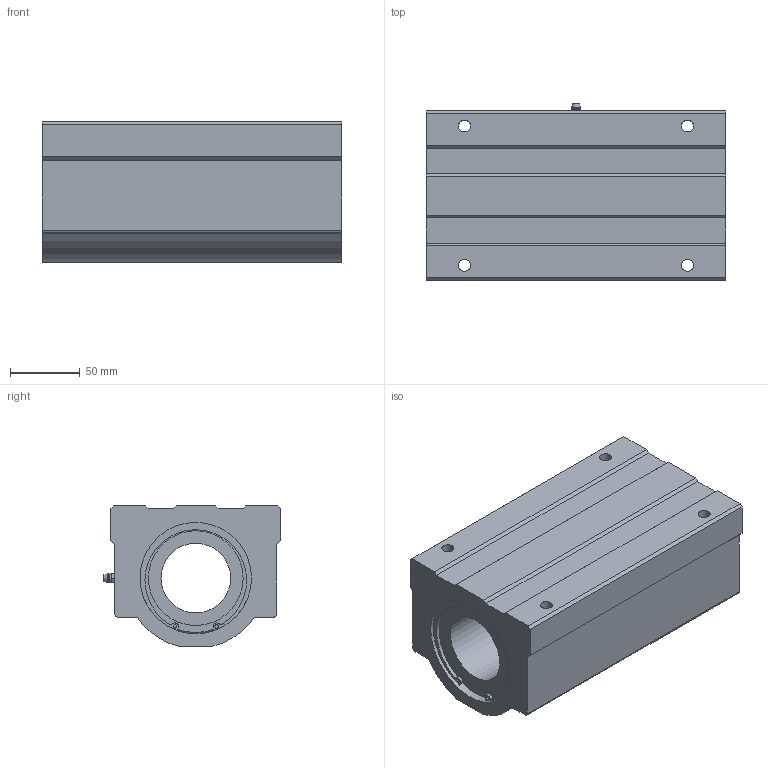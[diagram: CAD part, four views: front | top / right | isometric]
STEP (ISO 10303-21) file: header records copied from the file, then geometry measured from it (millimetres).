
FILE_DESCRIPTION((''),'2;1');
FILE_NAME('D:\製品 (図面)\カタログ用3D\リニアベアリング関連\STEP形式\LHW-B\LHW50B.stp','2010-05-21T10:52:40',('Tsuchiya'),(''),'Autodesk Inventor 10','Autodesk Inventor 10','');
FILE_SCHEMA(('AUTOMOTIVE_DESIGN { 1 0 10303 214 1 1 1 1 }'));
Length unit declared in the file: millimetre
Products named in the file (1): LHW50B
Bounding box: 215 x 127.4 x 101 mm (x, y, z)
Volume: 1818678.7 mm3; surface area: 170198.8 mm2
Topology: 1 solids, 7 shells, 116 faces, 277 edges, 181 vertices
Faces by surface type: plane 45, bspline 35, cylinder 25, cone 7, torus 2, sphere 2
Full cylindrical faces by diameter (mm): 2.5 x2, 50 x2, 68 x2, 76.5 x2, 80 x8
Entity records: 3445 total; most frequent: CARTESIAN_POINT 1004, DIRECTION 480, ORIENTED_EDGE 444, EDGE_CURVE 222, AXIS2_PLACEMENT_3D 188, EDGE_LOOP 188, VERTEX_POINT 166, FACE_OUTER_BOUND 116
